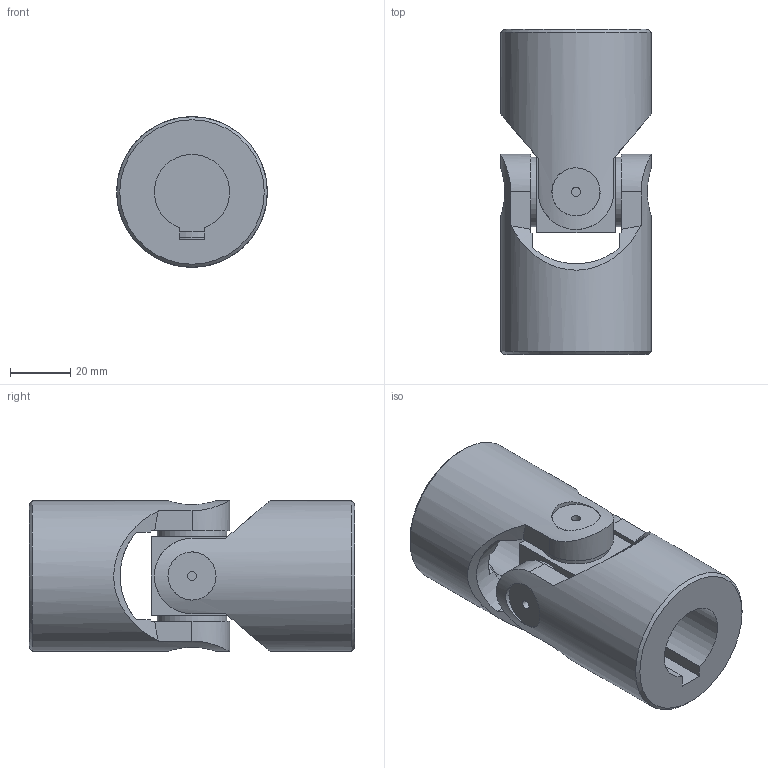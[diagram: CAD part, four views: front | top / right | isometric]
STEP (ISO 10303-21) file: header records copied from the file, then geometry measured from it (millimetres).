
FILE_DESCRIPTION(/* description */ (''),/* implementation_level */ '2;1');
FILE_NAME(/* name */ '\\SRV2016\Societa\Stefano\Disegni 3D\Dis. Clienti\0000Catalogo 3D\01Singoli G-GB\5G-2C_SG0S252C.stp',/* time_stamp */ '2021-11-10T11:09:32+01:00',/* author */ ('acquisti'),/* organization */ (''),/* preprocessor_version */ 'ST-DEVELOPER v15.6',/* originating_system */ 'Autodesk Inventor 2015',/* authorisation */ '');
FILE_SCHEMA (('AUTOMOTIVE_DESIGN { 1 0 10303 214 3 1 1 }'));
Length unit declared in the file: millimetre
Products named in the file (3): 5G SFE; 5G MOC; Assieme1
Assembly tree (3 placements, depth 2):
  Assieme1
    5G SFE
    5G MOC  x2
Bounding box: 50 x 108 x 50 mm (x, y, z)
Volume: 141210.5 mm3; surface area: 34017.2 mm2
Topology: 3 solids, 3 shells, 78 faces, 192 edges, 130 vertices
Faces by surface type: plane 42, cylinder 22, cone 12, torus 2
Full cylindrical faces by diameter (mm): 3 x4, 16 x4, 23 x4, 50 x2
Entity records: 1553 total; most frequent: CARTESIAN_POINT 496, DIRECTION 203, ORIENTED_EDGE 194, EDGE_CURVE 97, AXIS2_PLACEMENT_3D 85, VERTEX_POINT 73, EDGE_LOOP 66, FACE_OUTER_BOUND 46
